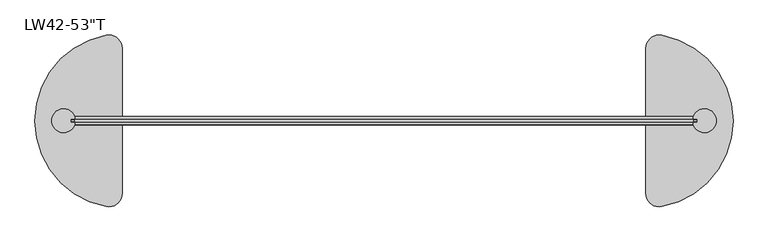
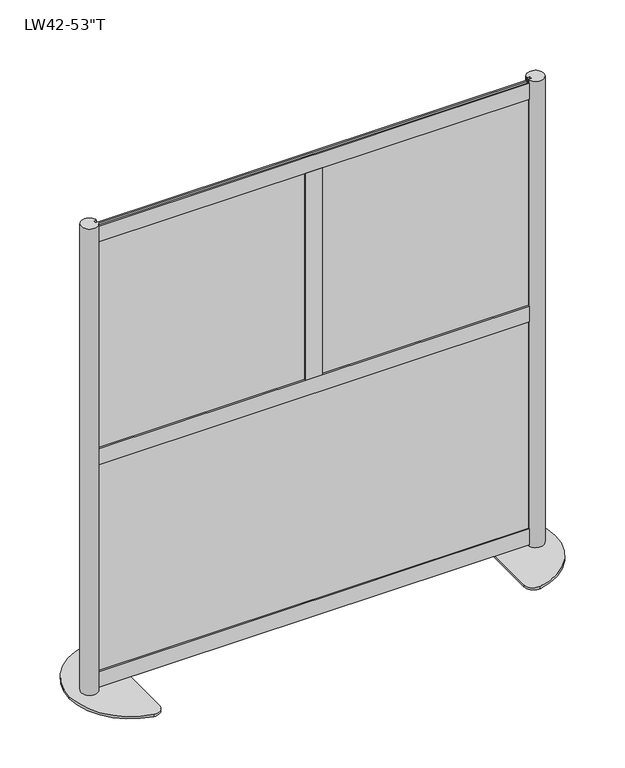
"""IFC4 building model written with IfcOpenShell, lengths in millimetres: furniture geometry."""

from ifc_helpers import new_model, si_unit, point, frame, frame_2d, origin, origin_with_axes, place, context, project, spatial, polyline, circle_curve, trimmed, segment, composite_curve, outline, extrude, source, transform, mapped, element, save


def furniture_6dbf7405(model_context):
    return source(origin(), model_context, "Body", "SweptSolid", [
        extrude(outline(polyline([(594.51875, -1.5875), (-594.51875, -1.5875), (-594.51875, 1.5875), (594.51875, 1.5875), (594.51875, -1.5875)])), frame((0.0, 0.0, 49.2633), z_axis=(0.0, 0.0, 1.0), x_axis=(1.0, 0.0, 0.0)), (0.0, 0.0, 1.0), 608.965),
        extrude(outline(polyline([(592.9137189, 1.5875), (592.9138926, -1.5875), (15.0638917, -1.5875), (15.063718, 1.5875), (592.9137189, 1.5875)])), frame((0.0, 0.0, 689.2671), z_axis=(0.0, 0.0, 1.0), x_axis=(1.0, 0.0, 0.0)), (0.0, 0.0, 1.0), 608.965),
        extrude(outline(polyline([(-592.9137189, 1.5875), (-15.063718, 1.5875), (-15.0638917, -1.5875), (-592.9138926, -1.5875), (-592.9137189, 1.5875)])), frame((0.0, 0.0, 689.2671), z_axis=(0.0, 0.0, 1.0), x_axis=(1.0, 0.0, 0.0)), (0.0, 0.0, 1.0), 608.965),
        extrude(outline(polyline([(-22.6314, 3.556), (-22.6314, 7.6327), (22.6314, 7.6327), (22.6314, 3.556), (15.5194, 3.556), (15.5194, -3.556), (22.6314, -3.556), (22.6314, -7.6327), (-22.6314, -7.6327), (-22.6314, -3.556), (-15.5194, -3.556), (-15.5194, 3.556), (-22.6314, 3.556)])), frame((0.0, 0.0, 696.3791), z_axis=(0.0, 0.0, 1.0), x_axis=(1.0, 0.0, 0.0)), (0.0, 0.0, 1.0), 594.741),
        extrude(outline(polyline([(3.556, 651.1163), (3.556, 658.2283), (-3.556, 658.2283), (-3.556, 651.1163), (-7.6327, 651.1163), (-7.6327, 696.3791), (-3.556, 696.3791), (-3.556, 689.2671), (3.556, 689.2671), (3.556, 696.3791), (7.6327, 696.3791), (7.6327, 651.1163), (3.556, 651.1163)])), frame((-584.9874, 0.0, 0.0), z_axis=(1.0, 0.0, 0.0), x_axis=(0.0, 1.0, 0.0)), (0.0, 0.0, 1.0), 1169.9748),
        extrude(outline(polyline([(3.556, 11.1125), (3.556, 18.2245), (-3.556, 18.2245), (-3.556, 11.1125), (-7.6327, 11.1125), (-7.6327, 56.3753), (-3.556, 56.3753), (-3.556, 49.2633), (3.556, 49.2633), (3.556, 56.3753), (7.6327, 56.3753), (7.6327, 11.1125), (3.556, 11.1125)])), frame((-585.0636, 0.0, 0.0), z_axis=(1.0, 0.0, 0.0), x_axis=(0.0, 1.0, 0.0)), (0.0, 0.0, 1.0), 1170.1272),
        extrude(outline(polyline([(3.556, 1291.1200292), (3.556, 1298.2320292), (-3.556, 1298.2320292), (-3.556, 1291.1200292), (-7.6327, 1291.1200292), (-7.6327, 1336.3828292), (-3.556, 1336.3828292), (-3.556, 1329.2708292), (3.556, 1329.2708292), (3.556, 1336.3828292), (7.6327, 1336.3828292), (7.6327, 1291.1200292), (3.556, 1291.1200292)])), frame((-585.0636, 0.0, 0.0), z_axis=(1.0, 0.0, 0.0), x_axis=(0.0, 1.0, 0.0)), (0.0, 0.0, 1.0), 1170.1272),
        extrude(outline(composite_curve([segment(polyline([(585.0636, -7.7568093), (585.0636, -3.556), (592.1756, -3.556), (592.1756, 3.556), (585.0636, 3.556), (585.0636, 7.7568093)]), True, "CONTINUOUS"), segment(trimmed(circle_curve(frame_2d((606.1665837, 0.0)), 22.4834163), [point((585.0636, 7.7568093))], [point((585.0636, -7.7568093))], False, "CARTESIAN"), True, "CONTINUOUS")], self_intersect=False)), frame((0.0, 0.0, 6.35), z_axis=(0.0, 0.0, 1.0), x_axis=(1.0, 0.0, 0.0)), (0.0, 0.0, 1.0), 1339.85),
        extrude(outline(composite_curve([segment(polyline([(495.3, -137.3715036), (495.3, 137.3715036)]), True, "CONTINUOUS"), segment(trimmed(circle_curve(frame_2d((520.7, 137.3715036)), 25.4), [point((495.3, 137.3715036))], [point((525.3181818, 162.3481406))], False, "CARTESIAN"), True, "CONTINUOUS"), segment(trimmed(circle_curve(frame_2d((495.3, 0.0)), 165.1), [point((525.3181818, 162.3481406))], [point((660.4, 0.0))], False, "CARTESIAN"), True, "CONTINUOUS"), segment(trimmed(circle_curve(frame_2d((495.3, 0.0)), 165.1), [point((660.4, 0.0))], [point((525.3181818, -162.3481406))], False, "CARTESIAN"), True, "CONTINUOUS"), segment(trimmed(circle_curve(frame_2d((520.7, -137.3715036)), 25.4), [point((525.3181818, -162.3481406))], [point((495.3, -137.3715036))], False, "CARTESIAN"), True, "CONTINUOUS")], self_intersect=False)), origin_with_axes(), (0.0, 0.0, 1.0), 6.35),
        extrude(outline(composite_curve([segment(trimmed(circle_curve(frame_2d((-606.1665837, 0.0)), 22.4834163), [point((-585.0636, -7.7568093))], [point((-585.0636, 7.7568093))], False, "CARTESIAN"), True, "CONTINUOUS"), segment(polyline([(-585.0636, 7.7568093), (-585.0636, 3.556), (-592.1756, 3.556), (-592.1756, -3.556), (-585.0636, -3.556), (-585.0636, -7.7568093)]), True, "CONTINUOUS")], self_intersect=False)), frame((0.0, 0.0, 6.35), z_axis=(0.0, 0.0, 1.0), x_axis=(1.0, 0.0, 0.0)), (0.0, 0.0, 1.0), 1339.85),
        extrude(outline(composite_curve([segment(trimmed(circle_curve(frame_2d((-520.7, -137.3715036)), 25.4), [point((-495.3, -137.3715036))], [point((-525.3181818, -162.3481406))], False, "CARTESIAN"), True, "CONTINUOUS"), segment(trimmed(circle_curve(frame_2d((-495.3, 0.0)), 165.1), [point((-525.3181818, -162.3481406))], [point((-660.4, 0.0))], False, "CARTESIAN"), True, "CONTINUOUS"), segment(trimmed(circle_curve(frame_2d((-495.3, 0.0)), 165.1), [point((-660.4, 0.0))], [point((-525.3181818, 162.3481406))], False, "CARTESIAN"), True, "CONTINUOUS"), segment(trimmed(circle_curve(frame_2d((-520.7, 137.3715036)), 25.4), [point((-525.3181818, 162.3481406))], [point((-495.3, 137.3715036))], False, "CARTESIAN"), True, "CONTINUOUS"), segment(polyline([(-495.3, 137.3715036), (-495.3, -137.3715036)]), True, "CONTINUOUS")], self_intersect=False)), origin_with_axes(), (0.0, 0.0, 1.0), 6.35),
    ])


if __name__ == "__main__":
    model = new_model("IFC4")
    model_context = context("Model", 3, world=origin())
    ifc_project = project(units=[si_unit("LENGTHUNIT", "METRE", prefix="MILLI")], contexts=[model_context])
    site = spatial("IfcSite", under=ifc_project)
    building = spatial("IfcBuilding", under=site)
    placement = place(None, origin())
    furniture_shape = furniture_6dbf7405(model_context)
    element("IfcFurniture", 1, ObjectType="Loft_Wall-Framewall-52 : LW42-53\"T", at=placement, inside=building, context=model_context, shape_type="MappedRepresentation", body=[
        mapped(furniture_shape, transform((0.0, 0.0, 0.0), x_axis=(1.0, 0.0, 0.0), y_axis=(0.0, 1.0, 0.0), z_axis=(0.0, 0.0, 1.0))),
    ])
    save(model, "model.ifc")
